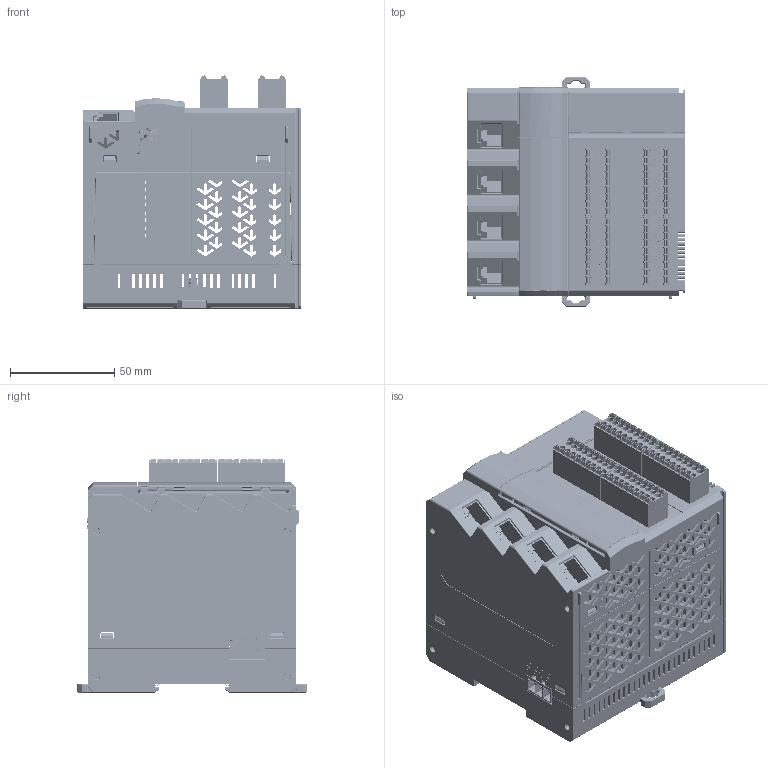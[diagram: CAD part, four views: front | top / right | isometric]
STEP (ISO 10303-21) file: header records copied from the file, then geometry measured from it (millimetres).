
FILE_DESCRIPTION((''),'2;1');
FILE_NAME('0-PMC-HOST_ASM','2021-05-21T',('Administrator'),(''),'PRO/ENGINEER BY PARAMETRIC TECHNOLOGY CORPORATION, 2009440','PRO/ENGINEER BY PARAMETRIC TECHNOLOGY CORPORATION, 2009440','');
FILE_SCHEMA(('CONFIG_CONTROL_DESIGN'));
Products named in the file (32): PMC-HOST-HOUSING_1; PMC-HOST-BAT-DOOR_1; PMC-HOST-BAT-DOOR_ASM_1_ASM_ASM_ASM; PMC-HOST-LED-GUIDE-01_1; PMC-HOST-DOOR_1; RT7-ST-0001-100M_1; RT7-ST-0010-1000M_1; B-1_ASM_1_ASM_ASM_ASM; 15EDGRHC-THR-3_5_1; B-02_ASM_1_ASM_ASM_ASM; B-03_ASM_1_ASM_ASM_ASM; USB-01_1; RESET-SWITCH_1; DIAL-SWITCH_1; RS232-RS485-6IPN_1; TF-2_1; B-4_ASM_1_ASM_ASM_ASM; PMC-HOST-COVER_1; PRT0001; PRT0002; ASM0001_ASM_ASM; OQ0371010000G_1; CONNECTOR-M_1; CONNECTOR-M-0_ASM_1_ASM_ASM_ASM; PRT0003; B-5_ASM_1_ASM_ASM_ASM; TERMINAL-COMMON_1; PMC-COMMUNICATION-ADAPTER-03_1; PRT0004; 0-PMC-HOST_ASM_1_ASM_ASM_ASM; 0-PMC-HOST_ASM_1_ASM_ASM; 0-PMC-HOST_ASM
Assembly tree (41 placements, depth 6):
  0-PMC-HOST_ASM
    0-PMC-HOST_ASM_1_ASM_ASM
      0-PMC-HOST_ASM_1_ASM_ASM_ASM
        PMC-HOST-HOUSING_1
        PMC-HOST-BAT-DOOR_ASM_1_ASM_ASM_ASM
          PMC-HOST-BAT-DOOR_1
        PMC-HOST-LED-GUIDE-01_1
        PMC-HOST-DOOR_1
        B-1_ASM_1_ASM_ASM_ASM
          RT7-ST-0001-100M_1  x3
          RT7-ST-0010-1000M_1
        B-02_ASM_1_ASM_ASM_ASM
          15EDGRHC-THR-3_5_1  x2
        B-03_ASM_1_ASM_ASM_ASM
          15EDGRHC-THR-3_5_1  x2
        B-4_ASM_1_ASM_ASM_ASM
          USB-01_1
          RESET-SWITCH_1
          DIAL-SWITCH_1  x2
          RS232-RS485-6IPN_1
          TF-2_1
        PMC-HOST-COVER_1
        ASM0001_ASM_ASM  x2
          PRT0001
          PRT0002
        B-5_ASM_1_ASM_ASM_ASM
          OQ0371010000G_1
          CONNECTOR-M-0_ASM_1_ASM_ASM_ASM
            CONNECTOR-M_1
          PRT0003
        TERMINAL-COMMON_1  x4
        PMC-COMMUNICATION-ADAPTER-03_1
        PRT0004
Bounding box: 105 x 110 x 111.92 mm (x, y, z)
Volume: 174317.5 mm3; surface area: 224605.9 mm2
Topology: 32 solids, 32 shells, 12336 faces, 33245 edges, 21487 vertices
Faces by surface type: plane 8932, cylinder 2339, torus 367, bspline 236, extrusion 213, sphere 160, cone 89
Entity records: 305053 total; most frequent: CARTESIAN_POINT 74450, ORIENTED_EDGE 49380, DIRECTION 45032, EDGE_CURVE 24690, VECTOR 19728, LINE 19515, VERTEX_POINT 15942, AXIS2_PLACEMENT_3D 12652
